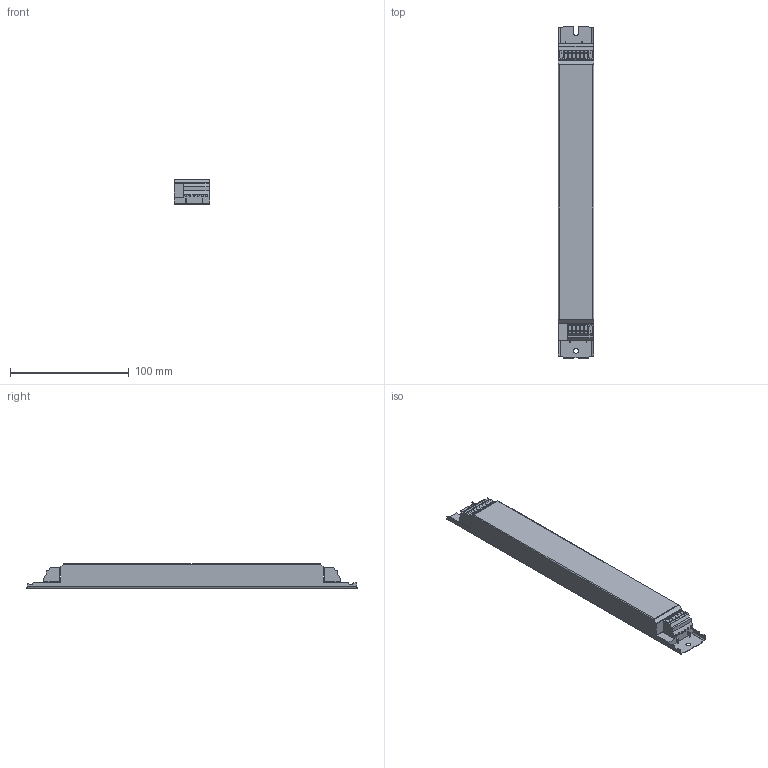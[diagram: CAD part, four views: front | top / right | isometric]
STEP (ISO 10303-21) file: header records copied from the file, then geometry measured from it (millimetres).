
FILE_DESCRIPTION((''),'2;1');
FILE_NAME('15007360Z','2012-12-10T',('juergen.hrach'),(''),'PRO/ENGINEER BY PARAMETRIC TECHNOLOGY CORPORATION, 2011310','PRO/ENGINEER BY PARAMETRIC TECHNOLOGY CORPORATION, 2011310','');
FILE_SCHEMA(('AUTOMOTIVE_DESIGN { 1 2 10303 214 0 1 1 1 }'));
Length unit declared in the file: millimetre
Products named in the file (1): 15007360Z
Bounding box: 30 x 280 x 21 mm (x, y, z)
Volume: 151157.4 mm3; surface area: 29262.4 mm2
Topology: 1 solids, 1 shells, 361 faces, 1070 edges, 712 vertices
Faces by surface type: plane 260, cylinder 101
Entity records: 15792 total; most frequent: CARTESIAN_POINT 2274, ORIENTED_EDGE 2140, DIRECTION 1954, PRESENTATION_STYLE_ASSIGNMENT 1103, STYLED_ITEM 1071, CURVE_STYLE 1070, EDGE_CURVE 1070, VECTOR 836
